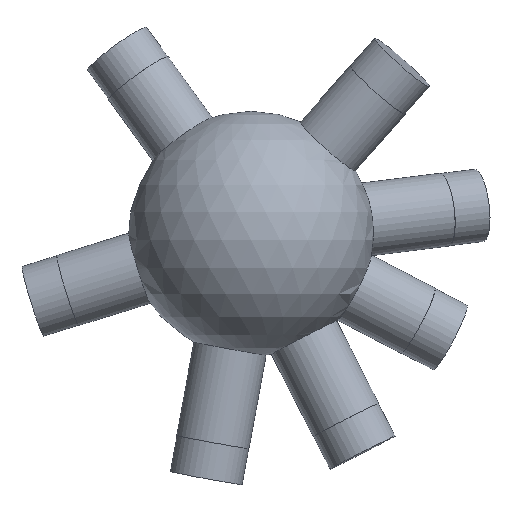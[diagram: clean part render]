
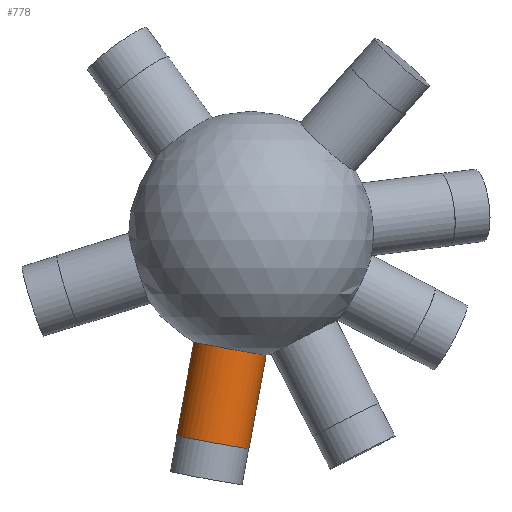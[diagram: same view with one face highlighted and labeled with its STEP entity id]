
A CAD part, left-side view. The second image highlights one B-rep face of the part: STEP entity #778.
In plain terms, the highlighted cylindrical face has radius 6 mm (diameter 12 mm), a full revolution.
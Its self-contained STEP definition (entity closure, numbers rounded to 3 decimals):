
#22 = VERTEX_POINT('',#23);
#23 = CARTESIAN_POINT('',(5.256,0.,
    -19.297));
#33 = SPHERICAL_SURFACE('',#34,20.);
#34 = AXIS2_PLACEMENT_3D('',#35,#36,#37);
#35 = CARTESIAN_POINT('',(0.,0.,0.));
#36 = DIRECTION('',(0.,0.,1.));
#37 = DIRECTION('',(1.,0.,-0.));
#53 = EDGE_CURVE('',#54,#22,#56,.T.);
#54 = VERTEX_POINT('',#55);
#55 = CARTESIAN_POINT('',(0.365,-2.469,-19.844
    ));
#56 = SURFACE_CURVE('',#57,(#62,#131),.PCURVE_S1.);
#57 = CIRCLE('',#58,6.);
#58 = AXIS2_PLACEMENT_3D('',#59,#60,#61);
#59 = CARTESIAN_POINT('',(0.365,3.433,-18.764)
  );
#60 = DIRECTION('',(0.019,0.18,-0.983));
#61 = DIRECTION('',(0.,0.984,0.18));
#62 = PCURVE('',#33,#63);
#63 = DEFINITIONAL_REPRESENTATION('',(#64),#130);
#64 = B_SPLINE_CURVE_WITH_KNOTS('',8,(#65,#66,#67,#68,#69,#70,#71,#72,
    #73,#74,#75,#76,#77,#78,#79,#80,#81,#82,#83,#84,#85,#86,#87,#88,#89,
    #90,#91,#92,#93,#94,#95,#96,#97,#98,#99,#100,#101,#102,#103,#104,
    #105,#106,#107,#108,#109,#110,#111,#112,#113,#114,#115,#116,#117,
    #118,#119,#120,#121,#122,#123,#124,#125,#126,#127,#128,#129),
  .UNSPECIFIED.,.F.,.F.,(9,7,7,7,7,7,7,7,7,9),(3.142,
    3.308,3.469,3.782,4.075,
    4.625,5.586,7.029,7.75,
    8.471),.UNSPECIFIED.);
#65 = CARTESIAN_POINT('',(4.859,-1.446));
#66 = CARTESIAN_POINT('',(4.81,-1.447));
#67 = CARTESIAN_POINT('',(4.759,-1.447));
#68 = CARTESIAN_POINT('',(4.709,-1.448));
#69 = CARTESIAN_POINT('',(4.658,-1.448));
#70 = CARTESIAN_POINT('',(4.606,-1.448));
#71 = CARTESIAN_POINT('',(4.555,-1.448));
#72 = CARTESIAN_POINT('',(4.504,-1.448));
#73 = CARTESIAN_POINT('',(4.405,-1.447));
#74 = CARTESIAN_POINT('',(4.357,-1.446));
#75 = CARTESIAN_POINT('',(4.309,-1.445));
#76 = CARTESIAN_POINT('',(4.262,-1.444));
#77 = CARTESIAN_POINT('',(4.215,-1.442));
#78 = CARTESIAN_POINT('',(4.17,-1.441));
#79 = CARTESIAN_POINT('',(4.125,-1.439));
#80 = CARTESIAN_POINT('',(3.998,-1.434));
#81 = CARTESIAN_POINT('',(3.918,-1.43));
#82 = CARTESIAN_POINT('',(3.842,-1.425));
#83 = CARTESIAN_POINT('',(3.77,-1.42));
#84 = CARTESIAN_POINT('',(3.703,-1.415));
#85 = CARTESIAN_POINT('',(3.639,-1.409));
#86 = CARTESIAN_POINT('',(3.579,-1.403));
#87 = CARTESIAN_POINT('',(3.468,-1.391));
#88 = CARTESIAN_POINT('',(3.417,-1.385));
#89 = CARTESIAN_POINT('',(3.369,-1.378));
#90 = CARTESIAN_POINT('',(3.323,-1.372));
#91 = CARTESIAN_POINT('',(3.278,-1.366));
#92 = CARTESIAN_POINT('',(3.236,-1.359));
#93 = CARTESIAN_POINT('',(3.195,-1.353));
#94 = CARTESIAN_POINT('',(3.081,-1.334));
#95 = CARTESIAN_POINT('',(3.012,-1.321));
#96 = CARTESIAN_POINT('',(2.947,-1.309));
#97 = CARTESIAN_POINT('',(2.885,-1.296));
#98 = CARTESIAN_POINT('',(2.826,-1.284));
#99 = CARTESIAN_POINT('',(2.769,-1.272));
#100 = CARTESIAN_POINT('',(2.713,-1.26));
#101 = CARTESIAN_POINT('',(2.565,-1.228));
#102 = CARTESIAN_POINT('',(2.476,-1.209));
#103 = CARTESIAN_POINT('',(2.389,-1.191));
#104 = CARTESIAN_POINT('',(2.305,-1.174));
#105 = CARTESIAN_POINT('',(2.223,-1.158));
#106 = CARTESIAN_POINT('',(2.142,-1.144));
#107 = CARTESIAN_POINT('',(2.062,-1.131));
#108 = CARTESIAN_POINT('',(1.864,-1.105));
#109 = CARTESIAN_POINT('',(1.747,-1.092));
#110 = CARTESIAN_POINT('',(1.631,-1.084));
#111 = CARTESIAN_POINT('',(1.516,-1.08));
#112 = CARTESIAN_POINT('',(1.401,-1.081));
#113 = CARTESIAN_POINT('',(1.285,-1.086));
#114 = CARTESIAN_POINT('',(1.169,-1.095));
#115 = CARTESIAN_POINT('',(0.993,-1.114));
#116 = CARTESIAN_POINT('',(0.934,-1.122));
#117 = CARTESIAN_POINT('',(0.874,-1.13));
#118 = CARTESIAN_POINT('',(0.814,-1.14));
#119 = CARTESIAN_POINT('',(0.754,-1.15));
#120 = CARTESIAN_POINT('',(0.692,-1.161));
#121 = CARTESIAN_POINT('',(0.63,-1.174));
#122 = CARTESIAN_POINT('',(0.503,-1.199));
#123 = CARTESIAN_POINT('',(0.438,-1.213));
#124 = CARTESIAN_POINT('',(0.372,-1.227));
#125 = CARTESIAN_POINT('',(0.303,-1.242));
#126 = CARTESIAN_POINT('',(0.233,-1.257));
#127 = CARTESIAN_POINT('',(0.16,-1.273));
#128 = CARTESIAN_POINT('',(0.082,-1.289));
#129 = CARTESIAN_POINT('',(0.,-1.305));
#130 = ( GEOMETRIC_REPRESENTATION_CONTEXT(2) 
PARAMETRIC_REPRESENTATION_CONTEXT() REPRESENTATION_CONTEXT('2D SPACE',''
  ) );
#131 = PCURVE('',#132,#137);
#132 = CYLINDRICAL_SURFACE('',#133,6.);
#133 = AXIS2_PLACEMENT_3D('',#134,#135,#136);
#134 = CARTESIAN_POINT('',(0.,0.,0.));
#135 = DIRECTION('',(0.019,0.18,-0.983)
  );
#136 = DIRECTION('',(0.,-0.984,-0.18
    ));
#137 = DEFINITIONAL_REPRESENTATION('',(#138),#142);
#138 = LINE('',#139,#140);
#139 = CARTESIAN_POINT('',(-3.142,19.079));
#140 = VECTOR('',#141,1.);
#141 = DIRECTION('',(1.,0.));
#142 = ( GEOMETRIC_REPRESENTATION_CONTEXT(2) 
PARAMETRIC_REPRESENTATION_CONTEXT() REPRESENTATION_CONTEXT('2D SPACE',''
  ) );
#144 = EDGE_CURVE('',#22,#54,#145,.T.);
#145 = SURFACE_CURVE('',#146,(#151,#178),.PCURVE_S1.);
#146 = CIRCLE('',#147,6.);
#147 = AXIS2_PLACEMENT_3D('',#148,#149,#150);
#148 = CARTESIAN_POINT('',(0.365,3.433,-18.764
    ));
#149 = DIRECTION('',(0.019,0.18,-0.983)
  );
#150 = DIRECTION('',(0.,0.984,0.18));
#151 = PCURVE('',#33,#152);
#152 = DEFINITIONAL_REPRESENTATION('',(#153),#177);
#153 = B_SPLINE_CURVE_WITH_KNOTS('',8,(#154,#155,#156,#157,#158,#159,
    #160,#161,#162,#163,#164,#165,#166,#167,#168,#169,#170,#171,#172,
    #173,#174,#175,#176),.UNSPECIFIED.,.F.,.F.,(9,7,7,9),(2.188
    ,2.665,2.903,3.142),.UNSPECIFIED.);
#154 = CARTESIAN_POINT('',(6.283,-1.305));
#155 = CARTESIAN_POINT('',(6.229,-1.316));
#156 = CARTESIAN_POINT('',(6.172,-1.326));
#157 = CARTESIAN_POINT('',(6.113,-1.337));
#158 = CARTESIAN_POINT('',(6.05,-1.348));
#159 = CARTESIAN_POINT('',(5.984,-1.359));
#160 = CARTESIAN_POINT('',(5.914,-1.369));
#161 = CARTESIAN_POINT('',(5.837,-1.379));
#162 = CARTESIAN_POINT('',(5.713,-1.394));
#163 = CARTESIAN_POINT('',(5.67,-1.399));
#164 = CARTESIAN_POINT('',(5.626,-1.404));
#165 = CARTESIAN_POINT('',(5.579,-1.408));
#166 = CARTESIAN_POINT('',(5.53,-1.413));
#167 = CARTESIAN_POINT('',(5.479,-1.417));
#168 = CARTESIAN_POINT('',(5.426,-1.421));
#169 = CARTESIAN_POINT('',(5.314,-1.428));
#170 = CARTESIAN_POINT('',(5.256,-1.432));
#171 = CARTESIAN_POINT('',(5.195,-1.435));
#172 = CARTESIAN_POINT('',(5.132,-1.438));
#173 = CARTESIAN_POINT('',(5.067,-1.44));
#174 = CARTESIAN_POINT('',(4.999,-1.443));
#175 = CARTESIAN_POINT('',(4.93,-1.444));
#176 = CARTESIAN_POINT('',(4.859,-1.446));
#177 = ( GEOMETRIC_REPRESENTATION_CONTEXT(2) 
PARAMETRIC_REPRESENTATION_CONTEXT() REPRESENTATION_CONTEXT('2D SPACE',''
  ) );
#178 = PCURVE('',#132,#179);
#179 = DEFINITIONAL_REPRESENTATION('',(#180),#184);
#180 = LINE('',#181,#182);
#181 = CARTESIAN_POINT('',(3.142,19.079));
#182 = VECTOR('',#183,1.);
#183 = DIRECTION('',(1.,0.));
#184 = ( GEOMETRIC_REPRESENTATION_CONTEXT(2) 
PARAMETRIC_REPRESENTATION_CONTEXT() REPRESENTATION_CONTEXT('2D SPACE',''
  ) );
#778 = ADVANCED_FACE('',(#779),#132,.T.);
#779 = FACE_BOUND('',#780,.T.);
#780 = EDGE_LOOP('',(#781,#804,#831,#832,#833));
#781 = ORIENTED_EDGE('',*,*,#782,.T.);
#782 = EDGE_CURVE('',#54,#783,#785,.T.);
#783 = VERTEX_POINT('',#784);
#784 = CARTESIAN_POINT('',(0.662,0.331,-35.149
    ));
#785 = SEAM_CURVE('',#786,(#790,#797),.PCURVE_S1.);
#786 = LINE('',#787,#788);
#787 = CARTESIAN_POINT('',(0.,-5.902,
    -1.08));
#788 = VECTOR('',#789,1.);
#789 = DIRECTION('',(0.019,0.18,-0.983)
  );
#790 = PCURVE('',#132,#791);
#791 = DEFINITIONAL_REPRESENTATION('',(#792),#796);
#792 = LINE('',#793,#794);
#793 = CARTESIAN_POINT('',(6.283,-0.));
#794 = VECTOR('',#795,1.);
#795 = DIRECTION('',(0.,1.));
#796 = ( GEOMETRIC_REPRESENTATION_CONTEXT(2) 
PARAMETRIC_REPRESENTATION_CONTEXT() REPRESENTATION_CONTEXT('2D SPACE',''
  ) );
#797 = PCURVE('',#132,#798);
#798 = DEFINITIONAL_REPRESENTATION('',(#799),#803);
#799 = LINE('',#800,#801);
#800 = CARTESIAN_POINT('',(0.,-0.));
#801 = VECTOR('',#802,1.);
#802 = DIRECTION('',(0.,1.));
#803 = ( GEOMETRIC_REPRESENTATION_CONTEXT(2) 
PARAMETRIC_REPRESENTATION_CONTEXT() REPRESENTATION_CONTEXT('2D SPACE',''
  ) );
#804 = ORIENTED_EDGE('',*,*,#805,.F.);
#805 = EDGE_CURVE('',#783,#783,#806,.T.);
#806 = SURFACE_CURVE('',#807,(#812,#819),.PCURVE_S1.);
#807 = CIRCLE('',#808,6.);
#808 = AXIS2_PLACEMENT_3D('',#809,#810,#811);
#809 = CARTESIAN_POINT('',(0.662,6.233,-34.069
    ));
#810 = DIRECTION('',(0.019,0.18,-0.983)
  );
#811 = DIRECTION('',(0.,-0.984,-0.18
    ));
#812 = PCURVE('',#132,#813);
#813 = DEFINITIONAL_REPRESENTATION('',(#814),#818);
#814 = LINE('',#815,#816);
#815 = CARTESIAN_POINT('',(0.,34.641));
#816 = VECTOR('',#817,1.);
#817 = DIRECTION('',(1.,0.));
#818 = ( GEOMETRIC_REPRESENTATION_CONTEXT(2) 
PARAMETRIC_REPRESENTATION_CONTEXT() REPRESENTATION_CONTEXT('2D SPACE',''
  ) );
#819 = PCURVE('',#820,#825);
#820 = PLANE('',#821);
#821 = AXIS2_PLACEMENT_3D('',#822,#823,#824);
#822 = CARTESIAN_POINT('',(0.662,6.233,-34.069
    ));
#823 = DIRECTION('',(0.019,0.18,-0.983)
  );
#824 = DIRECTION('',(0.,-0.984,-0.18
    ));
#825 = DEFINITIONAL_REPRESENTATION('',(#826),#830);
#826 = CIRCLE('',#827,6.);
#827 = AXIS2_PLACEMENT_2D('',#828,#829);
#828 = CARTESIAN_POINT('',(0.,0.));
#829 = DIRECTION('',(1.,0.));
#830 = ( GEOMETRIC_REPRESENTATION_CONTEXT(2) 
PARAMETRIC_REPRESENTATION_CONTEXT() REPRESENTATION_CONTEXT('2D SPACE',''
  ) );
#831 = ORIENTED_EDGE('',*,*,#782,.F.);
#832 = ORIENTED_EDGE('',*,*,#53,.T.);
#833 = ORIENTED_EDGE('',*,*,#144,.T.);
